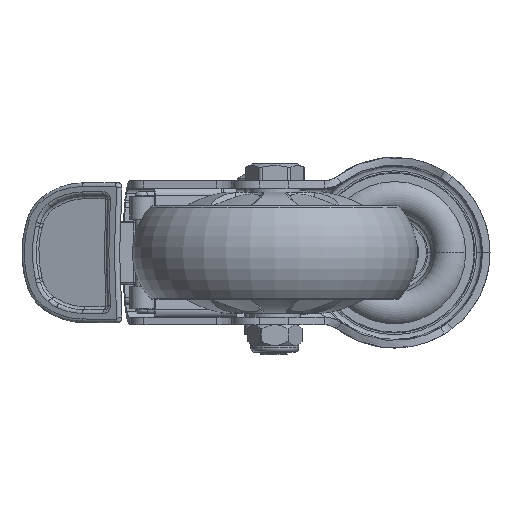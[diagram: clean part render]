
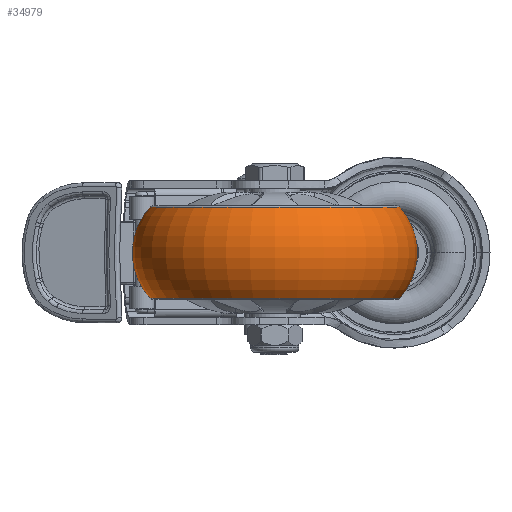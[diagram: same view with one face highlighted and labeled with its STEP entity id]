
A CAD part, front view. The second image highlights one B-rep face of the part: STEP entity #34979.
In plain terms, the highlighted toroidal (fillet/blend) face has major radius 20.1 mm and minor radius 18 mm.
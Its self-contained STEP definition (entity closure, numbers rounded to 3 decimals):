
#32239=CARTESIAN_POINT('',(20.1,0.,0.));
#32240=DIRECTION('',(0.,1.,0.));
#32241=DIRECTION('',(0.736,0.,0.676));
#32242=AXIS2_PLACEMENT_3D('',#32239,#32240,#32241);
#32244=CARTESIAN_POINT('',(-20.1,0.,0.));
#32245=DIRECTION('',(0.,-1.,0.));
#32246=DIRECTION('',(-0.736,0.,0.676));
#32247=AXIS2_PLACEMENT_3D('',#32244,#32245,#32246);
#32249=CARTESIAN_POINT('',(0.,0.,12.176));
#32250=DIRECTION('',(0.,0.,-1.));
#32251=DIRECTION('',(1.,0.,0.));
#32252=AXIS2_PLACEMENT_3D('',#32249,#32250,#32251);
#32274=CARTESIAN_POINT('',(0.,0.,-12.176));
#32275=DIRECTION('',(0.,0.,-1.));
#32276=DIRECTION('',(1.,0.,0.));
#32277=AXIS2_PLACEMENT_3D('',#32274,#32275,#32276);
#34504=CARTESIAN_POINT('',(33.356,0.,12.176));
#34506=VERTEX_POINT('',#34504);
#34507=CARTESIAN_POINT('',(33.356,0.,-12.176));
#34508=VERTEX_POINT('',#34507);
#34512=CARTESIAN_POINT('',(-33.356,0.,12.176));
#34514=VERTEX_POINT('',#34512);
#34515=CARTESIAN_POINT('',(-33.356,0.,-12.176));
#34516=VERTEX_POINT('',#34515);
#34965=CARTESIAN_POINT('',(0.,0.,0.));
#34966=DIRECTION('',(0.,0.,1.));
#34967=DIRECTION('',(-1.,0.,0.));
#34968=AXIS2_PLACEMENT_3D('',#34965,#34966,#34967);
#34969=TOROIDAL_SURFACE('',#34968,20.1,18.);
#34971=ORIENTED_EDGE('',*,*,#34970,.T.);
#34973=ORIENTED_EDGE('',*,*,#34972,.T.);
#34975=ORIENTED_EDGE('',*,*,#34974,.F.);
#34976=ORIENTED_EDGE('',*,*,#34957,.F.);
#34977=EDGE_LOOP('',(#34971,#34973,#34975,#34976));
#34978=FACE_OUTER_BOUND('',#34977,.F.);
#32243=CIRCLE('',#32242,18.);
#32248=CIRCLE('',#32247,18.);
#32253=CIRCLE('',#32252,33.356);
#32278=CIRCLE('',#32277,33.356);
#34957=EDGE_CURVE('',#34506,#34514,#32253,.T.);
#34970=EDGE_CURVE('',#34506,#34508,#32243,.T.);
#34972=EDGE_CURVE('',#34508,#34516,#32278,.T.);
#34974=EDGE_CURVE('',#34514,#34516,#32248,.T.);
#34979=ADVANCED_FACE('',(#34978),#34969,.T.);
